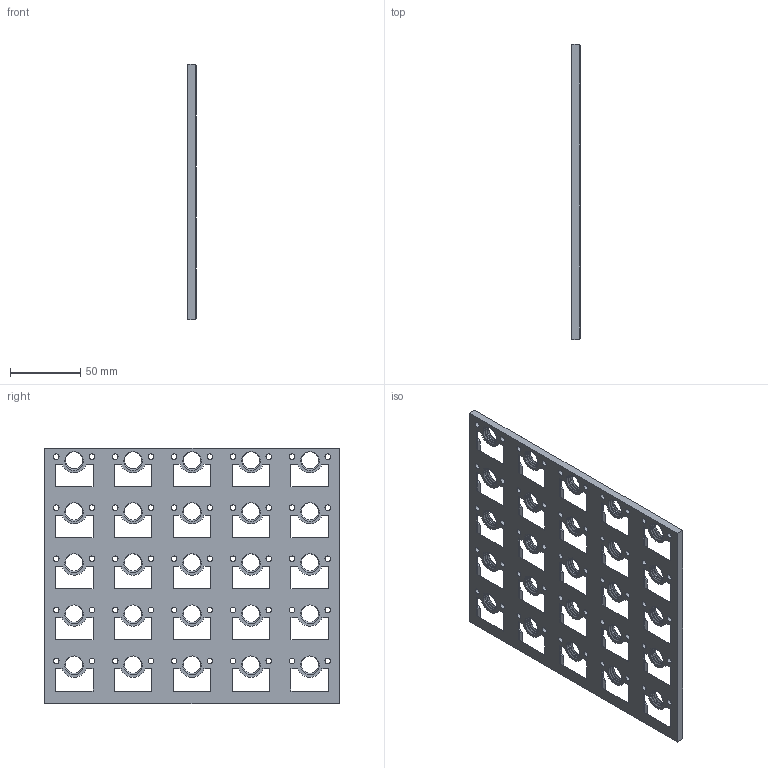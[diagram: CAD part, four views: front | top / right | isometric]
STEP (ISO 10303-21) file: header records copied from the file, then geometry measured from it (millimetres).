
FILE_DESCRIPTION(/* description */ ('','CAx-IF Rec.Pracs.---Representation and Presentation of Product Manufacturing Information (PMI)---4.0---2014-10-13'),/* implementation_level */ '2;1');
FILE_NAME(/* name */ 'Goews Grid 36H 5x5.step',/* time_stamp */ '2025-01-03T09:26:15-05:00',/* author */ (''),/* organization */ (''),/* preprocessor_version */ 'ST-DEVELOPER v20',/* originating_system */ 'Autodesk Translation Framework v13.20.0.188',/* authorisation */ '');
FILE_SCHEMA (('AP242_MANAGED_MODEL_BASED_3D_ENGINEERING_MIM_LF { 1 0 10303 442 1 1 4 }'));
Products named in the file (1): Goews Square 36H TileMaker
Bounding box: 6 x 210 x 181.87 mm (x, y, z)
Volume: 117276 mm3; surface area: 82976.2 mm2
Topology: 1 solids, 1 shells, 1080 faces, 2918 edges, 1840 vertices
Faces by surface type: plane 630, cylinder 325, cone 75, bspline 50
Full cylindrical faces by diameter (mm): 4 x50, 8 x50, 12.322 x50, 14.55 x50
Entity records: 62887 total; most frequent: CARTESIAN_POINT 36439, ORIENTED_EDGE 5836, DIRECTION 4805, EDGE_CURVE 2918, LINE 1943, VECTOR 1943, VERTEX_POINT 1840, AXIS2_PLACEMENT_3D 1431
